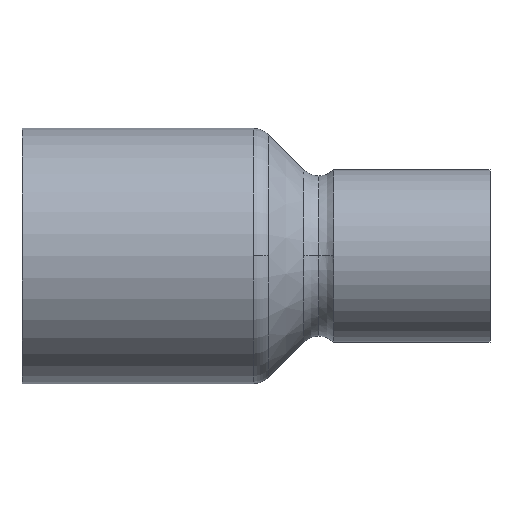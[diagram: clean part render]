
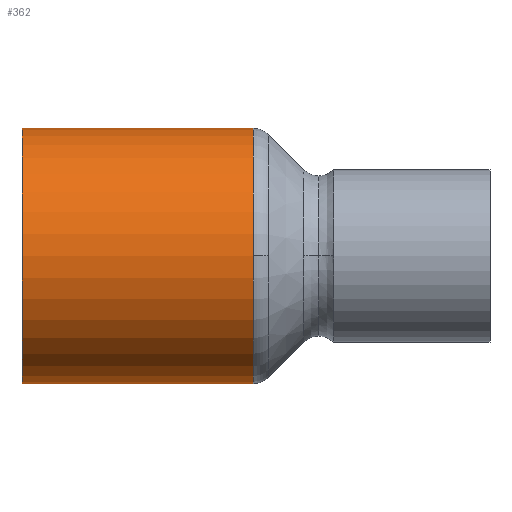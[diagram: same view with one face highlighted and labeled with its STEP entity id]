
A CAD part, top view. The second image highlights one B-rep face of the part: STEP entity #362.
In plain terms, the highlighted cylindrical face has radius 6 mm (diameter 12 mm), a partial arc.
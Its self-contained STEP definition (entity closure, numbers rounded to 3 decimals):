
#312=CARTESIAN_POINT('',(5.437,0.0,0.0));
#313=DIRECTION('',(1.0,0.0,0.0));
#314=DIRECTION('',(0.0,1.0,0.0));
#315=AXIS2_PLACEMENT_3D('',#312,#313,#314);
#316=CYLINDRICAL_SURFACE('',#315,6.);
#317=CARTESIAN_POINT('',(0.,6.,0.0));
#318=VERTEX_POINT('',#317);
#319=CARTESIAN_POINT('',(10.873,6.,0.0));
#320=VERTEX_POINT('',#319);
#321=CARTESIAN_POINT('',(0.,6.,0.0));
#322=DIRECTION('',(1.0,0.0,0.0));
#323=VECTOR('',#322,10.873);
#324=LINE('',#321,#323);
#325=EDGE_CURVE('',#318,#320,#324,.T.);
#326=ORIENTED_EDGE('',*,*,#325,.F.);
#327=CARTESIAN_POINT('',(0.,-6.,0.));
#328=VERTEX_POINT('',#327);
#329=CARTESIAN_POINT('',(0.,0.0,0.0));
#330=DIRECTION('',(1.0,0.0,0.0));
#331=DIRECTION('',(0.0,1.0,0.0));
#332=AXIS2_PLACEMENT_3D('',#329,#330,#331);
#333=CIRCLE('',#332,6.);
#334=EDGE_CURVE('',#318,#328,#333,.T.);
#335=ORIENTED_EDGE('',*,*,#334,.T.);
#336=CARTESIAN_POINT('',(10.873,-6.,0.));
#337=VERTEX_POINT('',#336);
#338=CARTESIAN_POINT('',(10.873,-6.,0.));
#339=DIRECTION('',(-1.0,0.0,0.0));
#340=VECTOR('',#339,10.873);
#341=LINE('',#338,#340);
#342=EDGE_CURVE('',#337,#328,#341,.T.);
#343=ORIENTED_EDGE('',*,*,#342,.F.);
#344=CARTESIAN_POINT('',(10.873,0.,6.));
#345=VERTEX_POINT('',#344);
#346=CARTESIAN_POINT('',(10.873,0.0,0.0));
#347=DIRECTION('',(1.0,0.0,0.0));
#348=DIRECTION('',(0.0,1.0,0.0));
#349=AXIS2_PLACEMENT_3D('',#346,#347,#348);
#350=CIRCLE('',#349,6.);
#351=EDGE_CURVE('',#345,#337,#350,.T.);
#352=ORIENTED_EDGE('',*,*,#351,.F.);
#353=CARTESIAN_POINT('',(10.873,0.0,0.0));
#354=DIRECTION('',(1.0,0.0,0.0));
#355=DIRECTION('',(0.0,1.0,0.0));
#356=AXIS2_PLACEMENT_3D('',#353,#354,#355);
#357=CIRCLE('',#356,6.);
#358=EDGE_CURVE('',#320,#345,#357,.T.);
#359=ORIENTED_EDGE('',*,*,#358,.F.);
#360=EDGE_LOOP('',(#326,#335,#343,#352,#359));
#361=FACE_OUTER_BOUND('',#360,.T.);
#362=ADVANCED_FACE('',(#361),#316,.T.);
